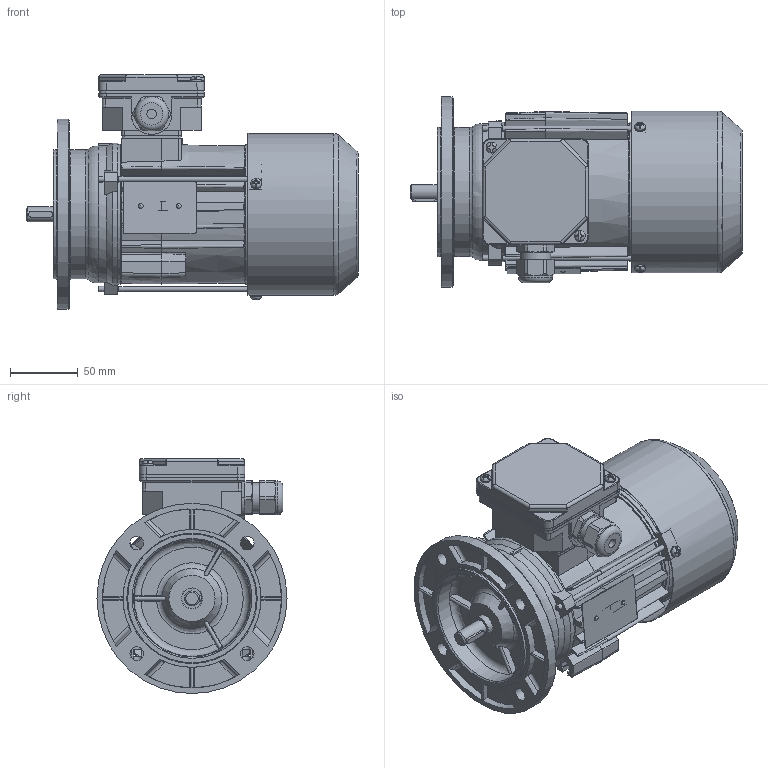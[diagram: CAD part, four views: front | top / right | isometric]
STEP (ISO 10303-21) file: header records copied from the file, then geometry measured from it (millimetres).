
FILE_DESCRIPTION(/* description */ ('Unknown'),/* implementation_level */ '2;1');
FILE_NAME(/* name */ '3SIEK63-6B',/* time_stamp */ '2021-02-01T14:39:24+01:00',/* author */ ('Unknown'),/* organization */ ('Unknown'),/* preprocessor_version */ 'ST-DEVELOPER v16.7',/* originating_system */ 'Solid Edge',/* authorisation */ 'Unknown');
FILE_SCHEMA (('AUTOMOTIVE_DESIGN {1 0 10303 214 3 1 1}'));
Products named in the file (1): 3SIEK63-6B
Bounding box: 244.47 x 140 x 173 mm (x, y, z)
Volume: 578307.8 mm3; surface area: 354770 mm2
Topology: 1 solids, 1 shells, 1751 faces, 5004 edges, 3268 vertices
Faces by surface type: plane 897, cylinder 518, torus 114, cone 112, bspline 89, sphere 21
Full cylindrical faces by diameter (mm): 2 x1, 2.4 x2, 3.7 x7, 3.8 x1, 4 x8, 4.5 x3, 4.8 x2, 5 x2, 7 x4, 8 x6, 10 x4, 10.998 x1, 12.897 x1, 13.097 x1, 14.997 x2, 15.4 x2, 18.996 x2, 19.496 x1, 19.996 x1, 20.096 x1, 21.516 x4, 22.3 x1, 25 x1, 28 x2, 28.48 x4, 31 x2, 35 x3, 71.986 x1, 95 x2, 96 x1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
Entity records: 71846 total; most frequent: CARTESIAN_POINT 15887, ORIENTED_EDGE 9368, DIRECTION 8630, EDGE_CURVE 4684, AXIS2_PLACEMENT_3D 3181, VERTEX_POINT 3148, LINE 2268, VECTOR 2268
